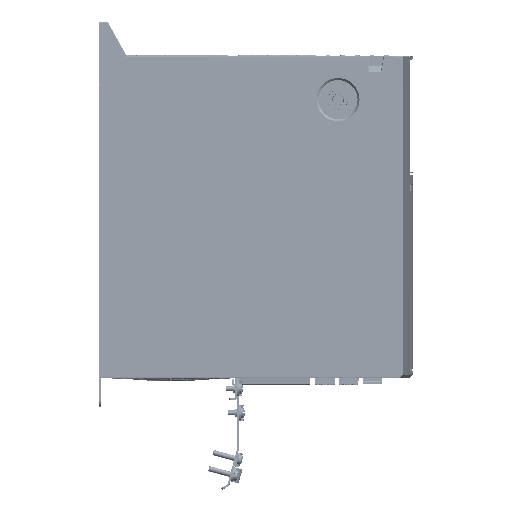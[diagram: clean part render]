
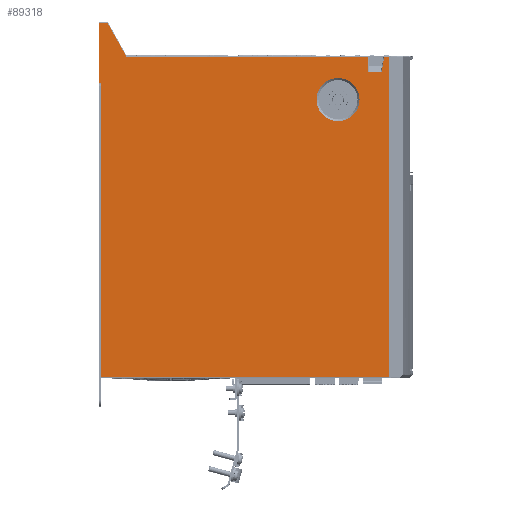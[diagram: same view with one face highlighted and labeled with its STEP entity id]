
A CAD part, top view. The second image highlights one B-rep face of the part: STEP entity #89318.
In plain terms, the highlighted planar face has unit normal (0, 0, 1) as drawn and (-1, 0, 0) by its records, which use the part's own axes.
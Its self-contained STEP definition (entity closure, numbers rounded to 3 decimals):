
#36291=DIRECTION('',(0.,-1.,0.));
#36292=VECTOR('',#36291,46.456);
#36293=CARTESIAN_POINT('',(-97.5,25.5,-224.));
#36294=LINE('',#36293,#36292);
#39367=DIRECTION('',(0.,-0.996,0.087));
#39368=VECTOR('',#39367,0.947);
#39369=CARTESIAN_POINT('',(-97.5,0.444,-203.366));
#39370=LINE('',#39369,#39368);
#39371=DIRECTION('',(0.,0.985,0.174));
#39372=VECTOR('',#39371,12.32);
#39373=CARTESIAN_POINT('',(-97.5,-12.632,-7.128));
#39374=LINE('',#39373,#39372);
#39375=DIRECTION('',(0.,-1.,0.));
#39376=VECTOR('',#39375,246.);
#39377=CARTESIAN_POINT('',(-97.5,-0.5,-1.688));
#39378=LINE('',#39377,#39376);
#39379=CARTESIAN_POINT('',(-97.5,-20.991,-222.5));
#39380=CARTESIAN_POINT('',(-97.5,-20.974,-223.));
#39381=CARTESIAN_POINT('',(-97.5,-20.974,-223.5));
#39382=CARTESIAN_POINT('',(-97.5,-20.956,-224.));
#39384=DIRECTION('',(0.,-0.874,0.486));
#39385=VECTOR('',#39384,28.667);
#39386=CARTESIAN_POINT('',(-97.5,25.5,-217.294));
#39387=LINE('',#39386,#39385);
#39388=CARTESIAN_POINT('',(-97.5,-33.5,-40.5));
#39389=DIRECTION('',(-1.,0.,0.));
#39390=DIRECTION('',(0.,1.,0.));
#39391=AXIS2_PLACEMENT_3D('',#39388,#39389,#39390);
#39393=CARTESIAN_POINT('',(-97.5,-33.5,-40.5));
#39394=DIRECTION('',(-1.,0.,0.));
#39395=DIRECTION('',(0.,0.,-1.));
#39396=AXIS2_PLACEMENT_3D('',#39393,#39394,#39395);
#39398=CARTESIAN_POINT('',(-97.5,-33.5,-40.5));
#39399=DIRECTION('',(-1.,0.,0.));
#39400=DIRECTION('',(0.,-1.,0.));
#39401=AXIS2_PLACEMENT_3D('',#39398,#39399,#39400);
#39403=CARTESIAN_POINT('',(-97.5,-33.5,-40.5));
#39404=DIRECTION('',(-1.,0.,0.));
#39405=DIRECTION('',(0.,0.,1.));
#39406=AXIS2_PLACEMENT_3D('',#39403,#39404,#39405);
#39417=CARTESIAN_POINT('',(-97.5,0.444,-203.366));
#52354=DIRECTION('',(0.,0.,-1.));
#52355=VECTOR('',#52354,3.294);
#52356=CARTESIAN_POINT('',(-97.5,-0.5,-1.688));
#52357=LINE('',#52356,#52355);
#52398=DIRECTION('',(0.,0.,-1.));
#52399=VECTOR('',#52398,10.104);
#52400=CARTESIAN_POINT('',(-97.5,-12.632,-7.128));
#52401=LINE('',#52400,#52399);
#52438=DIRECTION('',(0.,1.,0.));
#52439=VECTOR('',#52438,12.132);
#52440=CARTESIAN_POINT('',(-97.5,-12.632,-17.232));
#52441=LINE('',#52440,#52439);
#52534=DIRECTION('',(0.,0.,-1.));
#52535=VECTOR('',#52534,186.051);
#52536=CARTESIAN_POINT('',(-97.5,-0.5,-17.232));
#52537=LINE('',#52536,#52535);
#52550=DIRECTION('',(0.,0.,1.));
#52551=VECTOR('',#52550,220.812);
#52552=CARTESIAN_POINT('',(-97.5,-246.5,-222.5));
#52553=LINE('',#52552,#52551);
#52633=DIRECTION('',(0.,-1.,0.));
#52634=VECTOR('',#52633,225.509);
#52635=CARTESIAN_POINT('',(-97.5,-20.991,-222.5));
#52636=LINE('',#52635,#52634);
#64753=DIRECTION('',(0.,0.,-1.));
#64754=VECTOR('',#64753,6.706);
#64755=CARTESIAN_POINT('',(-97.5,25.5,-217.294));
#64756=LINE('',#64755,#64754);
#75499=CARTESIAN_POINT('',(-97.5,-246.5,-222.5));
#75500=VERTEX_POINT('',#75499);
#75575=CARTESIAN_POINT('',(-97.5,-20.991,-222.5));
#75576=VERTEX_POINT('',#75575);
#75577=CARTESIAN_POINT('',(-97.5,-20.956,-224.));
#75579=VERTEX_POINT('',#75577);
#75585=CARTESIAN_POINT('',(-97.5,25.5,-224.));
#75586=VERTEX_POINT('',#75585);
#79451=VERTEX_POINT('',#39417);
#79452=CARTESIAN_POINT('',(-97.5,25.5,-217.294));
#79453=VERTEX_POINT('',#79452);
#79474=CARTESIAN_POINT('',(-97.5,-0.5,-203.283));
#79475=VERTEX_POINT('',#79474);
#79476=CARTESIAN_POINT('',(-97.5,-0.5,-17.232));
#79477=VERTEX_POINT('',#79476);
#79478=CARTESIAN_POINT('',(-97.5,-12.632,-17.232));
#79479=VERTEX_POINT('',#79478);
#79480=CARTESIAN_POINT('',(-97.5,-12.632,-7.128));
#79481=VERTEX_POINT('',#79480);
#79482=CARTESIAN_POINT('',(-97.5,-0.5,-4.982));
#79483=VERTEX_POINT('',#79482);
#79484=CARTESIAN_POINT('',(-97.5,-0.5,-1.688));
#79485=VERTEX_POINT('',#79484);
#79486=CARTESIAN_POINT('',(-97.5,-246.5,-1.688));
#79487=VERTEX_POINT('',#79486);
#79488=CARTESIAN_POINT('',(-97.5,-33.5,-57.));
#79489=CARTESIAN_POINT('',(-97.5,-50.,-40.5));
#79490=VERTEX_POINT('',#79488);
#79491=VERTEX_POINT('',#79489);
#79492=CARTESIAN_POINT('',(-97.5,-17.,-40.5));
#79493=VERTEX_POINT('',#79492);
#79494=CARTESIAN_POINT('',(-97.5,-33.5,-24.));
#79495=VERTEX_POINT('',#79494);
#89278=CARTESIAN_POINT('',(-97.5,0.,-224.));
#89279=DIRECTION('',(-1.,0.,0.));
#89280=DIRECTION('',(0.,0.,1.));
#89281=AXIS2_PLACEMENT_3D('',#89278,#89279,#89280);
#89282=PLANE('',#89281);
#89284=ORIENTED_EDGE('',*,*,#89283,.T.);
#89286=ORIENTED_EDGE('',*,*,#89285,.F.);
#89288=ORIENTED_EDGE('',*,*,#89287,.F.);
#89290=ORIENTED_EDGE('',*,*,#89289,.F.);
#89292=ORIENTED_EDGE('',*,*,#89291,.T.);
#89294=ORIENTED_EDGE('',*,*,#89293,.F.);
#89296=ORIENTED_EDGE('',*,*,#89295,.T.);
#89298=ORIENTED_EDGE('',*,*,#89297,.F.);
#89300=ORIENTED_EDGE('',*,*,#89299,.F.);
#89302=ORIENTED_EDGE('',*,*,#89301,.T.);
#89303=ORIENTED_EDGE('',*,*,#85951,.F.);
#89305=ORIENTED_EDGE('',*,*,#89304,.F.);
#89307=ORIENTED_EDGE('',*,*,#89306,.T.);
#89308=EDGE_LOOP('',(#89284,#89286,#89288,#89290,#89292,#89294,#89296,#89298,
#89300,#89302,#89303,#89305,#89307));
#89309=FACE_OUTER_BOUND('',#89308,.F.);
#89310=ORIENTED_EDGE('',*,*,#89267,.T.);
#89311=ORIENTED_EDGE('',*,*,#89265,.T.);
#89313=ORIENTED_EDGE('',*,*,#89312,.T.);
#89315=ORIENTED_EDGE('',*,*,#89314,.T.);
#89316=EDGE_LOOP('',(#89310,#89311,#89313,#89315));
#89317=FACE_BOUND('',#89316,.F.);
#39383=B_SPLINE_CURVE_WITH_KNOTS('',3,(#39379,#39380,#39381,#39382),
.UNSPECIFIED.,.F.,.F.,(4,4),(0.,1.),.UNSPECIFIED.);
#39392=CIRCLE('',#39391,16.5);
#39397=CIRCLE('',#39396,16.5);
#39402=CIRCLE('',#39401,16.5);
#39407=CIRCLE('',#39406,16.5);
#85951=EDGE_CURVE('',#75586,#75579,#36294,.T.);
#89265=EDGE_CURVE('',#79490,#79491,#39397,.T.);
#89267=EDGE_CURVE('',#79493,#79490,#39392,.T.);
#89283=EDGE_CURVE('',#79451,#79475,#39370,.T.);
#89285=EDGE_CURVE('',#79477,#79475,#52537,.T.);
#89287=EDGE_CURVE('',#79479,#79477,#52441,.T.);
#89289=EDGE_CURVE('',#79481,#79479,#52401,.T.);
#89291=EDGE_CURVE('',#79481,#79483,#39374,.T.);
#89293=EDGE_CURVE('',#79485,#79483,#52357,.T.);
#89295=EDGE_CURVE('',#79485,#79487,#39378,.T.);
#89297=EDGE_CURVE('',#75500,#79487,#52553,.T.);
#89299=EDGE_CURVE('',#75576,#75500,#52636,.T.);
#89301=EDGE_CURVE('',#75576,#75579,#39383,.T.);
#89304=EDGE_CURVE('',#79453,#75586,#64756,.T.);
#89306=EDGE_CURVE('',#79453,#79451,#39387,.T.);
#89312=EDGE_CURVE('',#79491,#79495,#39402,.T.);
#89314=EDGE_CURVE('',#79495,#79493,#39407,.T.);
#89318=ADVANCED_FACE('',(#89309,#89317),#89282,.T.);
